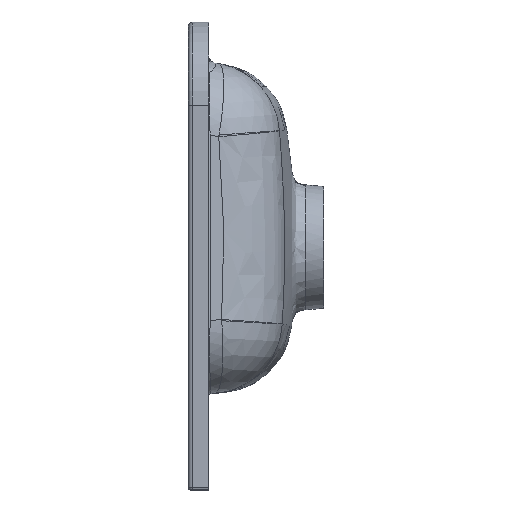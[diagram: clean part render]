
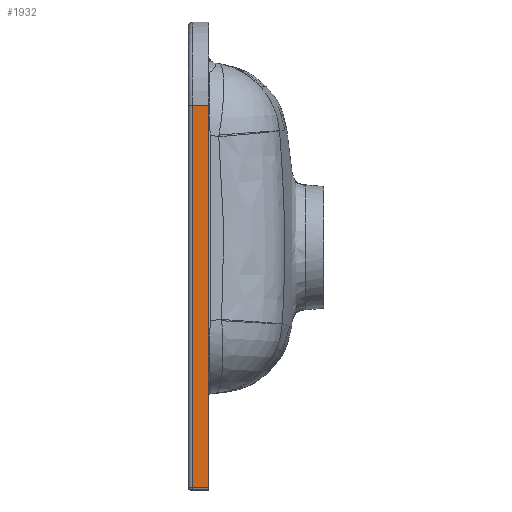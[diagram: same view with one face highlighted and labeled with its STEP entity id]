
A CAD part, left-side view. The second image highlights one B-rep face of the part: STEP entity #1932.
In plain terms, the highlighted planar face has unit normal (-1, 0.018, 0).
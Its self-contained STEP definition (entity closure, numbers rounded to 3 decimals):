
#65 = VECTOR ( 'NONE', #1191, 1000. ) ;
#216 = DIRECTION ( 'NONE',  ( 0., 0., 1. ) ) ;
#351 = ORIENTED_EDGE ( 'NONE', *, *, #1732, .T. ) ;
#611 = FACE_OUTER_BOUND ( 'NONE', #4901, .T. ) ;
#707 = CARTESIAN_POINT ( 'NONE',  ( -300.72, 88.07, -237. ) ) ;
#1180 = CARTESIAN_POINT ( 'NONE',  ( -301., 72., 140. ) ) ;
#1191 = DIRECTION ( 'NONE',  ( 0., 0., -1. ) ) ;
#1616 = CARTESIAN_POINT ( 'NONE',  ( -301., 72., -237. ) ) ;
#1732 = EDGE_CURVE ( 'NONE', #3202, #5161, #3422, .T. ) ;
#1776 = CARTESIAN_POINT ( 'NONE',  ( -300.72, 88.07, 140. ) ) ;
#1930 = PLANE ( 'NONE',  #8009 ) ;
#1932 = ADVANCED_FACE ( 'NONE', ( #611 ), #1930, .T. ) ;
#2021 = CARTESIAN_POINT ( 'NONE',  ( -301., 72., -239. ) ) ;
#2179 = VECTOR ( 'NONE', #4185, 1000. ) ;
#2219 = ORIENTED_EDGE ( 'NONE', *, *, #7183, .T. ) ;
#2346 = EDGE_CURVE ( 'NONE', #6677, #3202, #7433, .T. ) ;
#2368 = DIRECTION ( 'NONE',  ( 0.017, 1., 0. ) ) ;
#2490 = LINE ( 'NONE', #1180, #6160 ) ;
#3097 = VECTOR ( 'NONE', #216, 1000. ) ;
#3202 = VERTEX_POINT ( 'NONE', #3550 ) ;
#3422 = LINE ( 'NONE', #6022, #3097 ) ;
#3550 = CARTESIAN_POINT ( 'NONE',  ( -301., 72., -237. ) ) ;
#3757 = ORIENTED_EDGE ( 'NONE', *, *, #8175, .T. ) ;
#3906 = DIRECTION ( 'NONE',  ( -0.017, -1., 0. ) ) ;
#4185 = DIRECTION ( 'NONE',  ( -0.017, -1., 0. ) ) ;
#4675 = DIRECTION ( 'NONE',  ( -1., 0.017, 0. ) ) ;
#4870 = VERTEX_POINT ( 'NONE', #1776 ) ;
#4901 = EDGE_LOOP ( 'NONE', ( #2219, #7959, #351, #3757 ) ) ;
#5038 = LINE ( 'NONE', #7682, #65 ) ;
#5161 = VERTEX_POINT ( 'NONE', #7941 ) ;
#6022 = CARTESIAN_POINT ( 'NONE',  ( -301., 72., -239. ) ) ;
#6160 = VECTOR ( 'NONE', #2368, 1000. ) ;
#6677 = VERTEX_POINT ( 'NONE', #707 ) ;
#7183 = EDGE_CURVE ( 'NONE', #4870, #6677, #5038, .T. ) ;
#7433 = LINE ( 'NONE', #1616, #2179 ) ;
#7682 = CARTESIAN_POINT ( 'NONE',  ( -300.72, 88.07, -239. ) ) ;
#7941 = CARTESIAN_POINT ( 'NONE',  ( -301., 72., 140. ) ) ;
#7959 = ORIENTED_EDGE ( 'NONE', *, *, #2346, .T. ) ;
#8009 = AXIS2_PLACEMENT_3D ( 'NONE', #2021, #4675, #3906 ) ;
#8175 = EDGE_CURVE ( 'NONE', #5161, #4870, #2490, .T. ) ;
